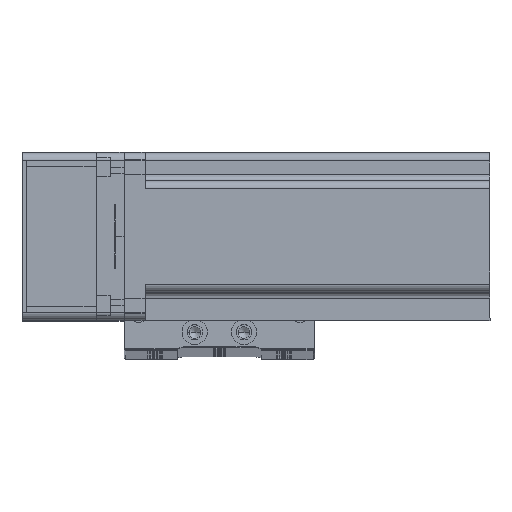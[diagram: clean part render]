
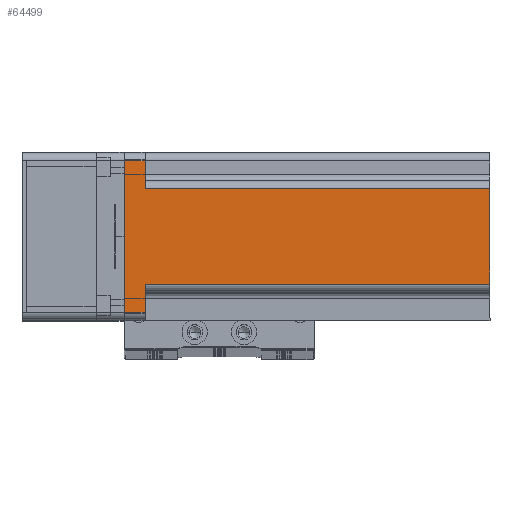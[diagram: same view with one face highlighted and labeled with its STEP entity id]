
A CAD part, top view. The second image highlights one B-rep face of the part: STEP entity #64499.
In plain terms, the highlighted planar face has unit normal (0, 0, 1) as drawn and (0, 1, 0) by its records, which use the part's own axes.
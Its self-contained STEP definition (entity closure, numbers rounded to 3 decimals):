
#4086 = CARTESIAN_POINT ( 'NONE',  ( 17., 30., 130.7 ) ) ;
#10282 = VERTEX_POINT ( 'NONE', #66113 ) ;
#12280 = ORIENTED_EDGE ( 'NONE', *, *, #43898, .T. ) ;
#13751 = ORIENTED_EDGE ( 'NONE', *, *, #46655, .F. ) ;
#15205 = VECTOR ( 'NONE', #22253, 1000. ) ;
#15747 = VERTEX_POINT ( 'NONE', #4086 ) ;
#16070 = CARTESIAN_POINT ( 'NONE',  ( 30., 30., 130.7 ) ) ;
#16509 = CARTESIAN_POINT ( 'NONE',  ( -17., 30., 130.7 ) ) ;
#17750 = ORIENTED_EDGE ( 'NONE', *, *, #39867, .T. ) ;
#19864 = CARTESIAN_POINT ( 'NONE',  ( 27., 30., 130.7 ) ) ;
#20548 = CARTESIAN_POINT ( 'NONE',  ( 27., 30., 7.5 ) ) ;
#20569 = VECTOR ( 'NONE', #61488, 1000. ) ;
#21089 = PLANE ( 'NONE',  #29045 ) ;
#21328 = DIRECTION ( 'NONE',  ( 1., 0., 0. ) ) ;
#22253 = DIRECTION ( 'NONE',  ( 0., 0., 1. ) ) ;
#23136 = ORIENTED_EDGE ( 'NONE', *, *, #27196, .T. ) ;
#24050 = VECTOR ( 'NONE', #40751, 1000. ) ;
#24813 = CARTESIAN_POINT ( 'NONE',  ( 20., 30., 7.5 ) ) ;
#25677 = LINE ( 'NONE', #42425, #39523 ) ;
#26761 = EDGE_CURVE ( 'NONE', #40207, #41363, #42847, .T. ) ;
#27196 = EDGE_CURVE ( 'NONE', #59664, #32110, #25677, .T. ) ;
#27242 = CARTESIAN_POINT ( 'NONE',  ( 17., 30., 130.7 ) ) ;
#29045 = AXIS2_PLACEMENT_3D ( 'NONE', #16070, #52459, #21328 ) ;
#29328 = VECTOR ( 'NONE', #30011, 1000. ) ;
#29954 = EDGE_CURVE ( 'NONE', #15747, #39092, #50462, .T. ) ;
#30011 = DIRECTION ( 'NONE',  ( -1., 0., 0. ) ) ;
#30267 = CARTESIAN_POINT ( 'NONE',  ( 30., 30., 130.7 ) ) ;
#30918 = VERTEX_POINT ( 'NONE', #20548 ) ;
#31016 = ORIENTED_EDGE ( 'NONE', *, *, #35453, .T. ) ;
#32110 = VERTEX_POINT ( 'NONE', #42415 ) ;
#33159 = EDGE_CURVE ( 'NONE', #30918, #39092, #43122, .T. ) ;
#35453 = EDGE_CURVE ( 'NONE', #10282, #40207, #36232, .T. ) ;
#36232 = LINE ( 'NONE', #54889, #60574 ) ;
#37771 = CARTESIAN_POINT ( 'NONE',  ( -17., 30., 130.7 ) ) ;
#37990 = LINE ( 'NONE', #19864, #51792 ) ;
#39092 = VERTEX_POINT ( 'NONE', #54257 ) ;
#39523 = VECTOR ( 'NONE', #52657, 1000. ) ;
#39867 = EDGE_CURVE ( 'NONE', #30918, #59664, #37990, .T. ) ;
#40207 = VERTEX_POINT ( 'NONE', #48643 ) ;
#40751 = DIRECTION ( 'NONE',  ( -1., 0., 0. ) ) ;
#41311 = ORIENTED_EDGE ( 'NONE', *, *, #26761, .T. ) ;
#41363 = VERTEX_POINT ( 'NONE', #16509 ) ;
#42415 = CARTESIAN_POINT ( 'NONE',  ( -27., 30., 0. ) ) ;
#42425 = CARTESIAN_POINT ( 'NONE',  ( 30., 30., 0. ) ) ;
#42847 = LINE ( 'NONE', #37771, #15205 ) ;
#43122 = LINE ( 'NONE', #24813, #29328 ) ;
#43898 = EDGE_CURVE ( 'NONE', #32110, #10282, #61992, .T. ) ;
#45659 = CARTESIAN_POINT ( 'NONE',  ( 27., 30., 0. ) ) ;
#46655 = EDGE_CURVE ( 'NONE', #15747, #41363, #65479, .T. ) ;
#47355 = ORIENTED_EDGE ( 'NONE', *, *, #29954, .T. ) ;
#48643 = CARTESIAN_POINT ( 'NONE',  ( -17., 30., 7.5 ) ) ;
#50462 = LINE ( 'NONE', #27242, #64214 ) ;
#50997 = DIRECTION ( 'NONE',  ( 0., 0., -1. ) ) ;
#51792 = VECTOR ( 'NONE', #50997, 1000. ) ;
#52459 = DIRECTION ( 'NONE',  ( 0., -1., 0. ) ) ;
#52657 = DIRECTION ( 'NONE',  ( -1., 0., 0. ) ) ;
#54257 = CARTESIAN_POINT ( 'NONE',  ( 17., 30., 7.5 ) ) ;
#54300 = EDGE_LOOP ( 'NONE', ( #31016, #41311, #13751, #47355, #65738, #17750, #23136, #12280 ) ) ;
#54889 = CARTESIAN_POINT ( 'NONE',  ( -20., 30., 7.5 ) ) ;
#56480 = CARTESIAN_POINT ( 'NONE',  ( -27., 30., 130.7 ) ) ;
#59664 = VERTEX_POINT ( 'NONE', #45659 ) ;
#60085 = DIRECTION ( 'NONE',  ( 1., 0., 0. ) ) ;
#60574 = VECTOR ( 'NONE', #60085, 1000. ) ;
#61488 = DIRECTION ( 'NONE',  ( 0., 0., 1. ) ) ;
#61992 = LINE ( 'NONE', #56480, #20569 ) ;
#63572 = DIRECTION ( 'NONE',  ( 0., 0., -1. ) ) ;
#64214 = VECTOR ( 'NONE', #63572, 1000. ) ;
#64499 = ADVANCED_FACE ( 'NONE', ( #66492 ), #21089, .F. ) ;
#65479 = LINE ( 'NONE', #30267, #24050 ) ;
#65738 = ORIENTED_EDGE ( 'NONE', *, *, #33159, .F. ) ;
#66113 = CARTESIAN_POINT ( 'NONE',  ( -27., 30., 7.5 ) ) ;
#66492 = FACE_OUTER_BOUND ( 'NONE', #54300, .T. ) ;
